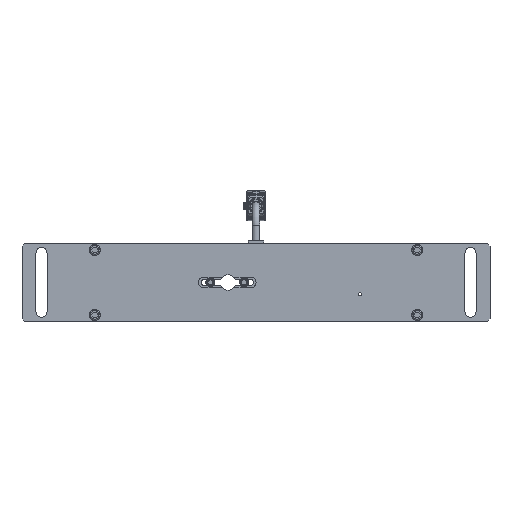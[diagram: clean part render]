
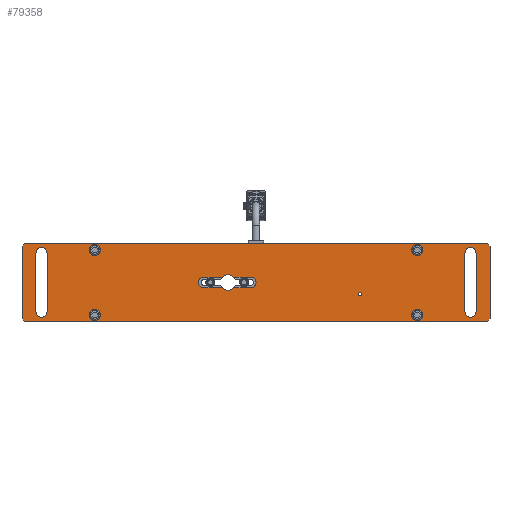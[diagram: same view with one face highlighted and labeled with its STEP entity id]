
A CAD part, front view. The second image highlights one B-rep face of the part: STEP entity #79358.
In plain terms, the highlighted planar face has unit normal (0, -1, 0) as drawn and (0, 0, 1) by its records, which use the part's own axes.
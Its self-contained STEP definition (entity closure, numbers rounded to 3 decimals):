
#2071=CIRCLE('',#82558,4.25);
#2072=CIRCLE('',#82559,4.25);
#2073=CIRCLE('',#82560,4.25);
#2074=CIRCLE('',#82561,4.25);
#2075=CIRCLE('',#82562,1.23);
#2076=CIRCLE('',#82563,6.);
#2077=CIRCLE('',#82564,4.15);
#2078=CIRCLE('',#82565,6.);
#2079=CIRCLE('',#82566,4.15);
#2080=CIRCLE('',#82567,4.35);
#2081=CIRCLE('',#82568,4.35);
#2082=CIRCLE('',#82569,4.35);
#2083=CIRCLE('',#82570,4.35);
#4458=ORIENTED_EDGE('',*,*,#22242,.F.);
#4459=ORIENTED_EDGE('',*,*,#22243,.F.);
#4460=ORIENTED_EDGE('',*,*,#22244,.F.);
#4461=ORIENTED_EDGE('',*,*,#22245,.F.);
#4462=ORIENTED_EDGE('',*,*,#22246,.F.);
#4463=ORIENTED_EDGE('',*,*,#22247,.F.);
#4464=ORIENTED_EDGE('',*,*,#22248,.F.);
#4465=ORIENTED_EDGE('',*,*,#22249,.F.);
#4466=ORIENTED_EDGE('',*,*,#22250,.T.);
#4467=ORIENTED_EDGE('',*,*,#22251,.F.);
#4468=ORIENTED_EDGE('',*,*,#22231,.T.);
#4469=ORIENTED_EDGE('',*,*,#22252,.T.);
#4470=ORIENTED_EDGE('',*,*,#22253,.T.);
#4471=ORIENTED_EDGE('',*,*,#22254,.F.);
#4472=ORIENTED_EDGE('',*,*,#22235,.T.);
#4473=ORIENTED_EDGE('',*,*,#22255,.T.);
#4474=ORIENTED_EDGE('',*,*,#22256,.T.);
#4475=ORIENTED_EDGE('',*,*,#22257,.T.);
#4476=ORIENTED_EDGE('',*,*,#22258,.T.);
#4477=ORIENTED_EDGE('',*,*,#22259,.T.);
#4478=ORIENTED_EDGE('',*,*,#22260,.T.);
#4479=ORIENTED_EDGE('',*,*,#22261,.T.);
#4480=ORIENTED_EDGE('',*,*,#22262,.T.);
#4481=ORIENTED_EDGE('',*,*,#22263,.T.);
#4482=ORIENTED_EDGE('',*,*,#22264,.T.);
#4483=ORIENTED_EDGE('',*,*,#22265,.T.);
#4484=ORIENTED_EDGE('',*,*,#22266,.T.);
#4485=ORIENTED_EDGE('',*,*,#22267,.T.);
#4486=ORIENTED_EDGE('',*,*,#22268,.T.);
#22231=EDGE_CURVE('',#31122,#31124,#37055,.T.);
#22235=EDGE_CURVE('',#31126,#31128,#37059,.T.);
#22242=EDGE_CURVE('',#31133,#31134,#2071,.T.);
#22243=EDGE_CURVE('',#31135,#31133,#37062,.T.);
#22244=EDGE_CURVE('',#31136,#31135,#2072,.T.);
#22245=EDGE_CURVE('',#31134,#31136,#37063,.T.);
#22246=EDGE_CURVE('',#31137,#31138,#2073,.T.);
#22247=EDGE_CURVE('',#31139,#31137,#37064,.T.);
#22248=EDGE_CURVE('',#31140,#31139,#2074,.T.);
#22249=EDGE_CURVE('',#31138,#31140,#37065,.T.);
#22250=EDGE_CURVE('',#31141,#31141,#2075,.T.);
#22251=EDGE_CURVE('',#31122,#31142,#2076,.T.);
#22252=EDGE_CURVE('',#31124,#31143,#2077,.T.);
#22253=EDGE_CURVE('',#31143,#31144,#37066,.T.);
#22254=EDGE_CURVE('',#31126,#31144,#2078,.T.);
#22255=EDGE_CURVE('',#31128,#31145,#2079,.T.);
#22256=EDGE_CURVE('',#31145,#31142,#37067,.T.);
#22257=EDGE_CURVE('',#31146,#31147,#37068,.T.);
#22258=EDGE_CURVE('',#31147,#31148,#37069,.F.);
#22259=EDGE_CURVE('',#31148,#31149,#37070,.T.);
#22260=EDGE_CURVE('',#31149,#31150,#37071,.F.);
#22261=EDGE_CURVE('',#31150,#31151,#37072,.T.);
#22262=EDGE_CURVE('',#31151,#31152,#37073,.F.);
#22263=EDGE_CURVE('',#31152,#31153,#37074,.T.);
#22264=EDGE_CURVE('',#31153,#31146,#37075,.F.);
#22265=EDGE_CURVE('',#31154,#31154,#2080,.T.);
#22266=EDGE_CURVE('',#31155,#31155,#2081,.T.);
#22267=EDGE_CURVE('',#31156,#31156,#2082,.T.);
#22268=EDGE_CURVE('',#31157,#31157,#2083,.T.);
#31122=VERTEX_POINT('',#105478);
#31124=VERTEX_POINT('',#105482);
#31126=VERTEX_POINT('',#105487);
#31128=VERTEX_POINT('',#105491);
#31133=VERTEX_POINT('',#105506);
#31134=VERTEX_POINT('',#105507);
#31135=VERTEX_POINT('',#105509);
#31136=VERTEX_POINT('',#105511);
#31137=VERTEX_POINT('',#105514);
#31138=VERTEX_POINT('',#105515);
#31139=VERTEX_POINT('',#105517);
#31140=VERTEX_POINT('',#105519);
#31141=VERTEX_POINT('',#105522);
#31142=VERTEX_POINT('',#105524);
#31143=VERTEX_POINT('',#105526);
#31144=VERTEX_POINT('',#105528);
#31145=VERTEX_POINT('',#105531);
#31146=VERTEX_POINT('',#105534);
#31147=VERTEX_POINT('',#105535);
#31148=VERTEX_POINT('',#105537);
#31149=VERTEX_POINT('',#105539);
#31150=VERTEX_POINT('',#105541);
#31151=VERTEX_POINT('',#105543);
#31152=VERTEX_POINT('',#105545);
#31153=VERTEX_POINT('',#105547);
#31154=VERTEX_POINT('',#105550);
#31155=VERTEX_POINT('',#105552);
#31156=VERTEX_POINT('',#105554);
#31157=VERTEX_POINT('',#105556);
#37055=LINE('',#105483,#42921);
#37059=LINE('',#105492,#42925);
#37062=LINE('',#105508,#42928);
#37063=LINE('',#105512,#42929);
#37064=LINE('',#105516,#42930);
#37065=LINE('',#105520,#42931);
#37066=LINE('',#105527,#42932);
#37067=LINE('',#105532,#42933);
#37068=LINE('',#105533,#42934);
#37069=LINE('',#105536,#42935);
#37070=LINE('',#105538,#42936);
#37071=LINE('',#105540,#42937);
#37072=LINE('',#105542,#42938);
#37073=LINE('',#105544,#42939);
#37074=LINE('',#105546,#42940);
#37075=LINE('',#105548,#42941);
#42921=VECTOR('',#88247,1000.);
#42925=VECTOR('',#88253,1000.);
#42928=VECTOR('',#88270,1000.);
#42929=VECTOR('',#88273,1000.);
#42930=VECTOR('',#88276,1000.);
#42931=VECTOR('',#88279,1000.);
#42932=VECTOR('',#88286,1000.);
#42933=VECTOR('',#88291,1000.);
#42934=VECTOR('',#88292,1000.);
#42935=VECTOR('',#88293,1000.);
#42936=VECTOR('',#88294,1000.);
#42937=VECTOR('',#88295,1000.);
#42938=VECTOR('',#88296,1000.);
#42939=VECTOR('',#88297,1000.);
#42940=VECTOR('',#88298,1000.);
#42941=VECTOR('',#88299,1000.);
#48781=EDGE_LOOP('',(#4458,#4459,#4460,#4461));
#48782=EDGE_LOOP('',(#4462,#4463,#4464,#4465));
#48783=EDGE_LOOP('',(#4466));
#48784=EDGE_LOOP('',(#4467,#4468,#4469,#4470,#4471,#4472,#4473,#4474));
#48785=EDGE_LOOP('',(#4475,#4476,#4477,#4478,#4479,#4480,#4481,#4482));
#48786=EDGE_LOOP('',(#4483));
#48787=EDGE_LOOP('',(#4484));
#48788=EDGE_LOOP('',(#4485));
#48789=EDGE_LOOP('',(#4486));
#52151=FACE_BOUND('',#48781,.T.);
#52152=FACE_BOUND('',#48782,.T.);
#52153=FACE_BOUND('',#48783,.T.);
#52154=FACE_BOUND('',#48784,.T.);
#52155=FACE_BOUND('',#48785,.T.);
#52156=FACE_BOUND('',#48786,.T.);
#52157=FACE_BOUND('',#48787,.T.);
#52158=FACE_BOUND('',#48788,.T.);
#52159=FACE_BOUND('',#48789,.T.);
#55521=PLANE('',#82557);
#79358=ADVANCED_FACE('',(#52151,#52152,#52153,#52154,#52155,#52156,#52157,
#52158,#52159),#55521,.T.);
#82557=AXIS2_PLACEMENT_3D('',#105504,#88266,#88267);
#82558=AXIS2_PLACEMENT_3D('',#105505,#88268,#88269);
#82559=AXIS2_PLACEMENT_3D('',#105510,#88271,#88272);
#82560=AXIS2_PLACEMENT_3D('',#105513,#88274,#88275);
#82561=AXIS2_PLACEMENT_3D('',#105518,#88277,#88278);
#82562=AXIS2_PLACEMENT_3D('',#105521,#88280,#88281);
#82563=AXIS2_PLACEMENT_3D('',#105523,#88282,#88283);
#82564=AXIS2_PLACEMENT_3D('',#105525,#88284,#88285);
#82565=AXIS2_PLACEMENT_3D('',#105529,#88287,#88288);
#82566=AXIS2_PLACEMENT_3D('',#105530,#88289,#88290);
#82567=AXIS2_PLACEMENT_3D('',#105549,#88300,#88301);
#82568=AXIS2_PLACEMENT_3D('',#105551,#88302,#88303);
#82569=AXIS2_PLACEMENT_3D('',#105553,#88304,#88305);
#82570=AXIS2_PLACEMENT_3D('',#105555,#88306,#88307);
#88247=DIRECTION('',(1.,0.,0.));
#88253=DIRECTION('',(-1.,0.,0.));
#88266=DIRECTION('',(0.,0.,1.));
#88267=DIRECTION('',(1.,0.,0.));
#88268=DIRECTION('',(0.,0.,1.));
#88269=DIRECTION('',(1.,0.,0.));
#88270=DIRECTION('',(0.,1.,0.));
#88271=DIRECTION('',(0.,0.,1.));
#88272=DIRECTION('',(-1.,0.,0.));
#88273=DIRECTION('',(0.,-1.,0.));
#88274=DIRECTION('',(0.,0.,1.));
#88275=DIRECTION('',(0.,-1.,0.));
#88276=DIRECTION('',(0.,1.,0.));
#88277=DIRECTION('',(0.,0.,1.));
#88278=DIRECTION('',(-1.,0.,0.));
#88279=DIRECTION('',(0.,-1.,0.));
#88280=DIRECTION('',(0.,0.,-1.));
#88281=DIRECTION('',(0.,-1.,0.));
#88282=DIRECTION('',(0.,0.,1.));
#88283=DIRECTION('',(1.,0.,0.));
#88284=DIRECTION('',(0.,0.,-1.));
#88285=DIRECTION('',(-1.,0.,0.));
#88286=DIRECTION('',(-1.,0.,0.));
#88287=DIRECTION('',(0.,0.,1.));
#88288=DIRECTION('',(1.,0.,0.));
#88289=DIRECTION('',(0.,0.,-1.));
#88290=DIRECTION('',(1.,0.,0.));
#88291=DIRECTION('',(1.,0.,0.));
#88292=DIRECTION('',(1.,0.,0.));
#88293=DIRECTION('',(-0.707,-0.707,0.));
#88294=DIRECTION('',(0.,1.,0.));
#88295=DIRECTION('',(0.707,-0.707,0.));
#88296=DIRECTION('',(-1.,0.,0.));
#88297=DIRECTION('',(0.707,0.707,0.));
#88298=DIRECTION('',(0.,-1.,0.));
#88299=DIRECTION('',(-0.707,0.707,0.));
#88300=DIRECTION('',(0.,0.,-1.));
#88301=DIRECTION('',(0.,-1.,0.));
#88302=DIRECTION('',(0.,0.,-1.));
#88303=DIRECTION('',(0.,-1.,0.));
#88304=DIRECTION('',(0.,0.,-1.));
#88305=DIRECTION('',(0.,-1.,0.));
#88306=DIRECTION('',(0.,0.,-1.));
#88307=DIRECTION('',(0.,-1.,0.));
#105478=CARTESIAN_POINT('',(25.833,4.15,0.));
#105482=CARTESIAN_POINT('',(40.1,4.15,0.));
#105483=CARTESIAN_POINT('',(4.1,4.15,0.));
#105487=CARTESIAN_POINT('',(17.167,-4.15,0.));
#105491=CARTESIAN_POINT('',(4.1,-4.15,0.));
#105492=CARTESIAN_POINT('',(40.1,-4.15,0.));
#105504=CARTESIAN_POINT('',(-180.,-30.,0.));
#105505=CARTESIAN_POINT('',(165.,22.5,0.));
#105506=CARTESIAN_POINT('',(169.25,22.5,0.));
#105507=CARTESIAN_POINT('',(160.75,22.5,0.));
#105508=CARTESIAN_POINT('',(169.25,-22.5,0.));
#105509=CARTESIAN_POINT('',(169.25,-22.5,0.));
#105510=CARTESIAN_POINT('',(165.,-22.5,0.));
#105511=CARTESIAN_POINT('',(160.75,-22.5,0.));
#105512=CARTESIAN_POINT('',(160.75,22.5,0.));
#105513=CARTESIAN_POINT('',(-165.,22.5,0.));
#105514=CARTESIAN_POINT('',(-160.75,22.5,0.));
#105515=CARTESIAN_POINT('',(-169.25,22.5,0.));
#105516=CARTESIAN_POINT('',(-160.75,-22.5,0.));
#105517=CARTESIAN_POINT('',(-160.75,-22.5,0.));
#105518=CARTESIAN_POINT('',(-165.,-22.5,0.));
#105519=CARTESIAN_POINT('',(-169.25,-22.5,0.));
#105520=CARTESIAN_POINT('',(-169.25,22.5,0.));
#105521=CARTESIAN_POINT('',(-80.,9.,0.));
#105522=CARTESIAN_POINT('',(-80.,7.771,0.));
#105523=CARTESIAN_POINT('',(21.5,0.,0.));
#105524=CARTESIAN_POINT('',(17.167,4.15,0.));
#105525=CARTESIAN_POINT('',(40.1,0.,0.));
#105526=CARTESIAN_POINT('',(40.1,-4.15,0.));
#105527=CARTESIAN_POINT('',(40.1,-4.15,0.));
#105528=CARTESIAN_POINT('',(25.833,-4.15,0.));
#105529=CARTESIAN_POINT('',(21.5,0.,0.));
#105530=CARTESIAN_POINT('',(4.1,0.,0.));
#105531=CARTESIAN_POINT('',(4.1,4.15,0.));
#105532=CARTESIAN_POINT('',(4.1,4.15,0.));
#105533=CARTESIAN_POINT('',(-180.,-30.,0.));
#105534=CARTESIAN_POINT('',(-178.,-30.,0.));
#105535=CARTESIAN_POINT('',(178.,-30.,0.));
#105536=CARTESIAN_POINT('',(-1.,-209.,0.));
#105537=CARTESIAN_POINT('',(180.,-28.,0.));
#105538=CARTESIAN_POINT('',(180.,-30.,0.));
#105539=CARTESIAN_POINT('',(180.,28.,0.));
#105540=CARTESIAN_POINT('',(29.,179.,0.));
#105541=CARTESIAN_POINT('',(178.,30.,0.));
#105542=CARTESIAN_POINT('',(180.,30.,0.));
#105543=CARTESIAN_POINT('',(-178.,30.,0.));
#105544=CARTESIAN_POINT('',(-209.,-1.,0.));
#105545=CARTESIAN_POINT('',(-180.,28.,0.));
#105546=CARTESIAN_POINT('',(-180.,30.,0.));
#105547=CARTESIAN_POINT('',(-180.,-28.,0.));
#105548=CARTESIAN_POINT('',(-179.,-29.,0.));
#105549=CARTESIAN_POINT('',(-124.,25.,0.));
#105550=CARTESIAN_POINT('',(-124.,20.65,0.));
#105551=CARTESIAN_POINT('',(124.,25.,0.));
#105552=CARTESIAN_POINT('',(124.,20.65,0.));
#105553=CARTESIAN_POINT('',(124.,-25.,0.));
#105554=CARTESIAN_POINT('',(124.,-29.35,0.));
#105555=CARTESIAN_POINT('',(-124.,-25.,0.));
#105556=CARTESIAN_POINT('',(-124.,-29.35,0.));
